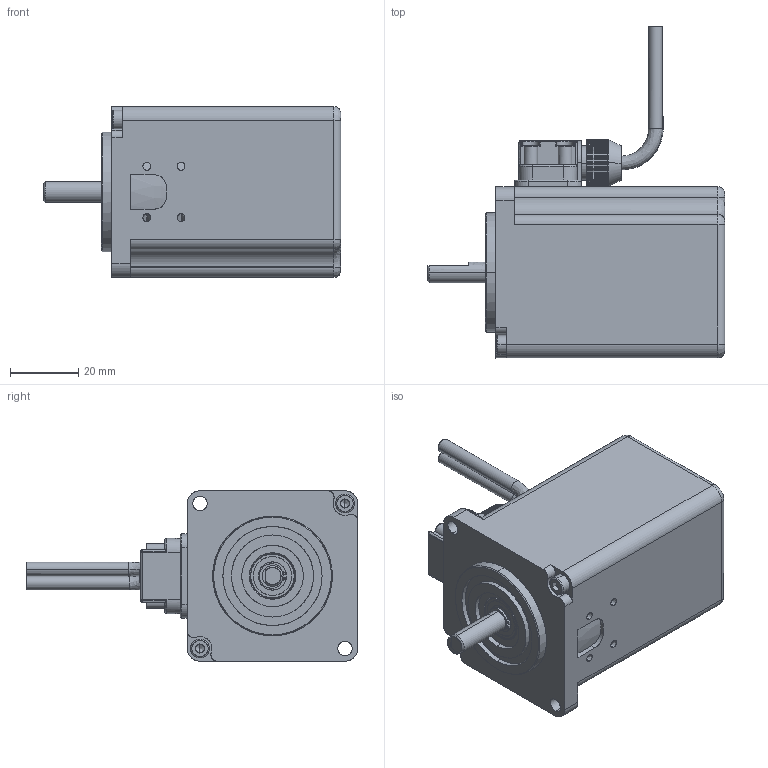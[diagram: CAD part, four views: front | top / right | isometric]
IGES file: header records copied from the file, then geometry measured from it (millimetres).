
Start section: SolidWorks IGES file using analytic representation for surfaces
Global section: file name: C:\Users\Administrator\Desktop\NCA30068-T.IGS; native system: SolidWorks 2016; preprocessor: SolidWorks 2016; author: Administrator; date: 180717.113118; units: millimetre
Bounding box: 87 x 97.09 x 50 mm (x, y, z)
Surface area: 25718.9 mm2 (no closed solid volume)
Topology: 0 solids, 0 shells, 896 faces, 10058 edges, 10051 vertices
Faces by surface type: revolution 471, bspline 425
